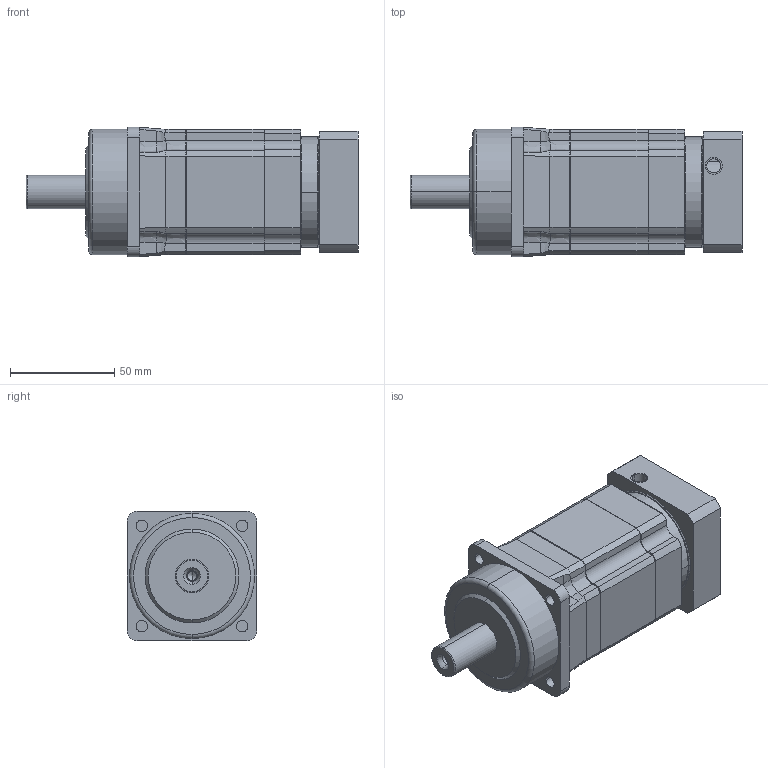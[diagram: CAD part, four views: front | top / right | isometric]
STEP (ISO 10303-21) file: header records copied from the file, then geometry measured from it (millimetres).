
FILE_DESCRIPTION((''),'2;1');
FILE_NAME('AF060A2-P0403202201_ASM','2022-09-05T',('Administrator'),(''),'PRO/ENGINEER BY PARAMETRIC TECHNOLOGY CORPORATION, 2015240','PRO/ENGINEER BY PARAMETRIC TECHNOLOGY CORPORATION, 2015240','');
FILE_SCHEMA(('CONFIG_CONTROL_DESIGN'));
Length unit declared in the file: millimetre
Products named in the file (7): P1301200001_D; AN023A-1; AF060; AB-INPUTSHAFT-2; AF060A2_ASM; P0403202201-0007; AF060A2-P0403202201_ASM
Assembly tree (6 placements, depth 3):
  AF060A2-P0403202201_ASM
    AF060A2_ASM
      P1301200001_D
      AN023A-1
      AF060
      AB-INPUTSHAFT-2
    P0403202201-0007
Bounding box: 159 x 62 x 62 mm (x, y, z)
Volume: 380735.7 mm3; surface area: 68034.7 mm2
Topology: 5 solids, 11 shells, 343 faces, 828 edges, 509 vertices
Faces by surface type: cylinder 133, plane 120, cone 38, bspline 32, torus 20
Entity records: 11221 total; most frequent: CARTESIAN_POINT 3072, DIRECTION 1709, ORIENTED_EDGE 1610, EDGE_CURVE 818, AXIS2_PLACEMENT_3D 664, VERTEX_POINT 509, EDGE_LOOP 397, VECTOR 381
